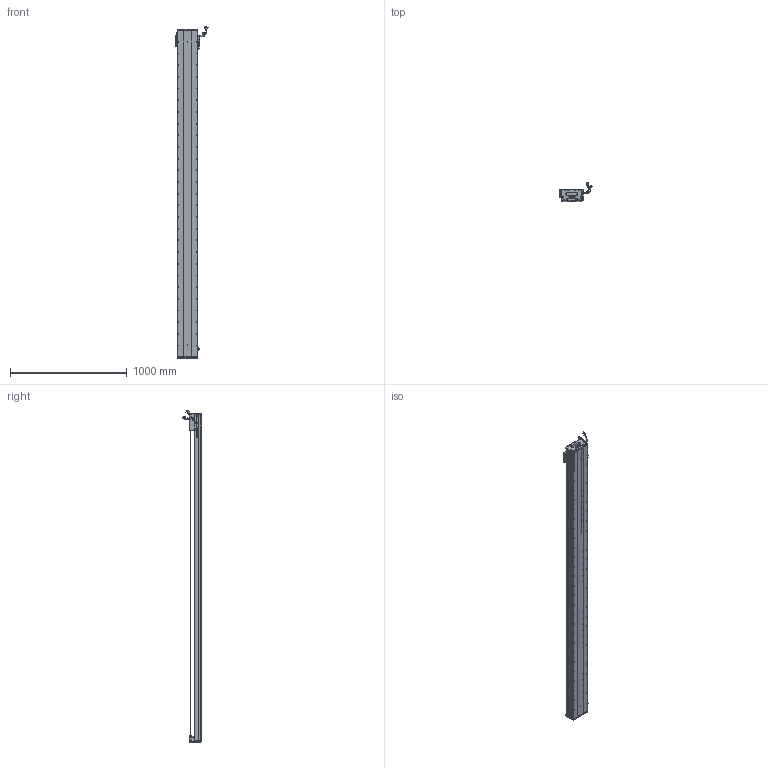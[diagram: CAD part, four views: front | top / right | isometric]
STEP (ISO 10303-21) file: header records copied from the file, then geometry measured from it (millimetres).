
FILE_DESCRIPTION (( 'STEP AP203' ), '1' );
FILE_NAME ('Z1-RY170D-1-L500-B-K.SLDASM_2600.step', '2021-05-17T08:56:11', ( '盈信电脑' ), ( '东莞市道滘镇水果街19号' ), 'SwSTEP 2.0', 'SolidWorks 2016', '' );
FILE_SCHEMA (( 'CONFIG_CONTROL_DESIGN' ));
Length unit declared in the file: millimetre
Products named in the file (36): SCALE-Part-1; SCREW-M1.6-2; 140蚥薯蝶輸; 140雄赽晤鎢ん堤盄; Z1-RY170臏賑輸(21遴); PSLH080_PSLF2; SCALE; COVER-Part-1; SEAL; HARNESS; Z1-RY170-L500耀郪菁釱_2600; 覜茼ん672; HARNESS-Part-1; Z1-RY170-L500詩湍145mm遵_2600; HOLDER0; Z1-RY170D-1-L500-B-K.SLDASM_2600; 榋妏寠巭燃_暯_M2_2; SCREW-M1.7; SCREW-M1.6; LABEL-Part-1; RY170直线电机感应器672光电感应片; LABEL; COVER; PBU_SHEET; Z-RY170詩湍奻揤裔; SCREW-M1.6-3; SCREW-M1.7-1; 170-Z-臏賑輸盄裔(21遴); SEAL-Part-1; Z-RY170詩湍狟揤裔; HARNESS-Part-2; SCREW-M1.6-1; SHIELDPLATE; SCALE-Part-2; Z-170詩湍傷裔啣; 080黍杅芛假蚾釱21遴
Assembly tree (41 placements, depth 4):
  Z1-RY170D-1-L500-B-K.SLDASM_2600
    Z1-RY170-L500耀郪菁釱_2600
    RY170直线电机感应器672光电感应片
    Z1-RY170臏賑輸(21遴)
    覜茼ん672  x3
    PSLH080_PSLF2
      SCALE
        SCALE-Part-1
        SCALE-Part-2
      HARNESS
        HARNESS-Part-1
        HARNESS-Part-2
      LABEL
        LABEL-Part-1
      COVER
        COVER-Part-1
      SEAL
        SEAL-Part-1
      榋妏寠巭燃_暯_M2_2
      SHIELDPLATE
      SCREW-M1.7
      SCREW-M1.7-1
      PBU_SHEET
      SCREW-M1.6
      SCREW-M1.6-1
      SCREW-M1.6-2
      SCREW-M1.6-3
      HOLDER0
    080黍杅芛假蚾釱21遴
    Z1-RY170-L500詩湍145mm遵_2600
    Z-170詩湍傷裔啣  x2
    Z-RY170詩湍奻揤裔  x2
    Z-RY170詩湍狟揤裔  x2
    140蚥薯蝶輸  x2
    170-Z-臏賑輸盄裔(21遴)
    140雄赽晤鎢ん堤盄
Bounding box: 275.29 x 158.11 x 2843.72 mm (x, y, z)
Volume: 13512363.6 mm3; surface area: 3379954.9 mm2
Topology: 36 solids, 36 shells, 4080 faces, 11359 edges, 7089 vertices
Faces by surface type: cylinder 2070, plane 1308, cone 580, torus 69, bspline 53
Entity records: 129187 total; most frequent: CARTESIAN_POINT 36590, ORIENTED_EDGE 19130, DIRECTION 17685, EDGE_CURVE 9565, AXIS2_PLACEMENT_3D 6506, VERTEX_POINT 6207, VECTOR 4673, LINE 4673
